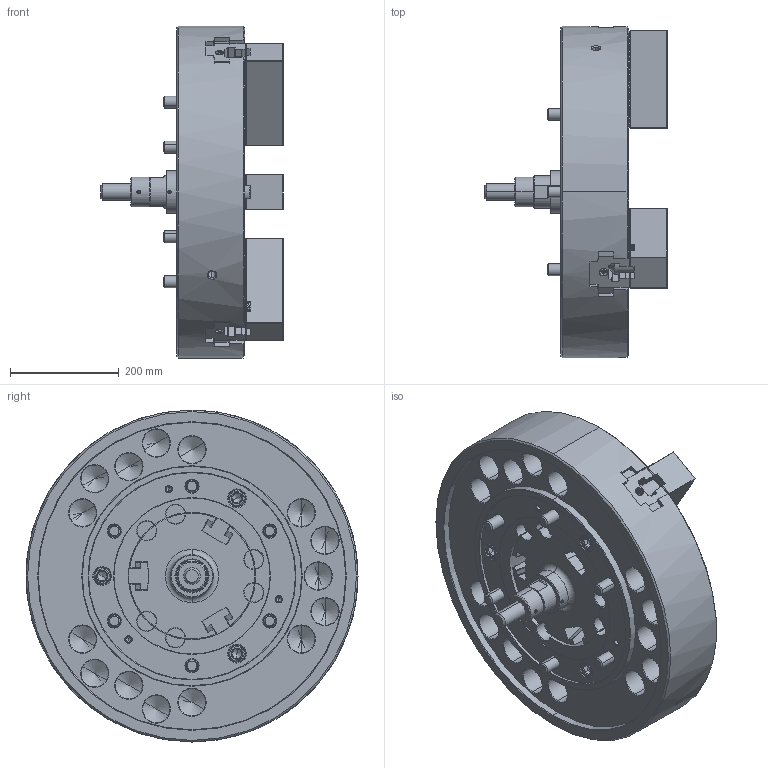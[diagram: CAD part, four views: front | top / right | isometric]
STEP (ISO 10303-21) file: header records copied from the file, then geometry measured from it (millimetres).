
FILE_DESCRIPTION (( 'STEP AP214' ), '1' );
FILE_NAME ('DT1_N-24_OUTSIDE_VIEW_HOL.STEP', '2026-03-19T01:37:42', ( '' ), ( '' ), 'SwSTEP 2.0', 'SolidWorks 2022', '' );
FILE_SCHEMA (( 'AUTOMOTIVE_DESIGN' ));
Length unit declared in the file: millimetre
Products named in the file (11): DT1_N-24_COVER^DT1_N-24; DT1_N-24_OUTSIDE_VIEW_HOL; DT1_N-24_TNUT^DT1_N-24; DT1_N-24_M6x12^DT1_N-24; DT1_N-24_DRAWSCREW^DT1_N-24; DT1_N-24_DN^DT1_N-24; DT1_N-24_M22x120^DT1_N-24; Copy of 61P321208^DT1_N-24; DT1_N-24_BASE^DT1_N-24; DT1_N-24_SOFTJAW^DT1_N-24; DT1_N-24_M20x60^DT1_N-24
Assembly tree (29 placements, depth 2):
  DT1_N-24_OUTSIDE_VIEW_HOL
    DT1_N-24_SOFTJAW^DT1_N-24  x3
    DT1_N-24_TNUT^DT1_N-24  x6
    DT1_N-24_COVER^DT1_N-24
    DT1_N-24_DRAWSCREW^DT1_N-24
    Copy of 61P321208^DT1_N-24
    DT1_N-24_DN^DT1_N-24
    DT1_N-24_BASE^DT1_N-24
    DT1_N-24_M6x12^DT1_N-24  x3
    DT1_N-24_M22x120^DT1_N-24  x6
    DT1_N-24_M20x60^DT1_N-24  x6
Bounding box: 335.44 x 610 x 610 mm (x, y, z)
Volume: 33717429.7 mm3; surface area: 1895292.7 mm2
Topology: 29 solids, 35 shells, 8024 faces, 22837 edges, 15004 vertices
Faces by surface type: plane 5067, cylinder 1531, bspline 836, cone 510, torus 74, sphere 6
Entity records: 224461 total; most frequent: CARTESIAN_POINT 71103, ORIENTED_EDGE 34814, DIRECTION 27125, EDGE_CURVE 17407, VECTOR 13055, LINE 13055, VERTEX_POINT 11478, AXIS2_PLACEMENT_3D 7035
